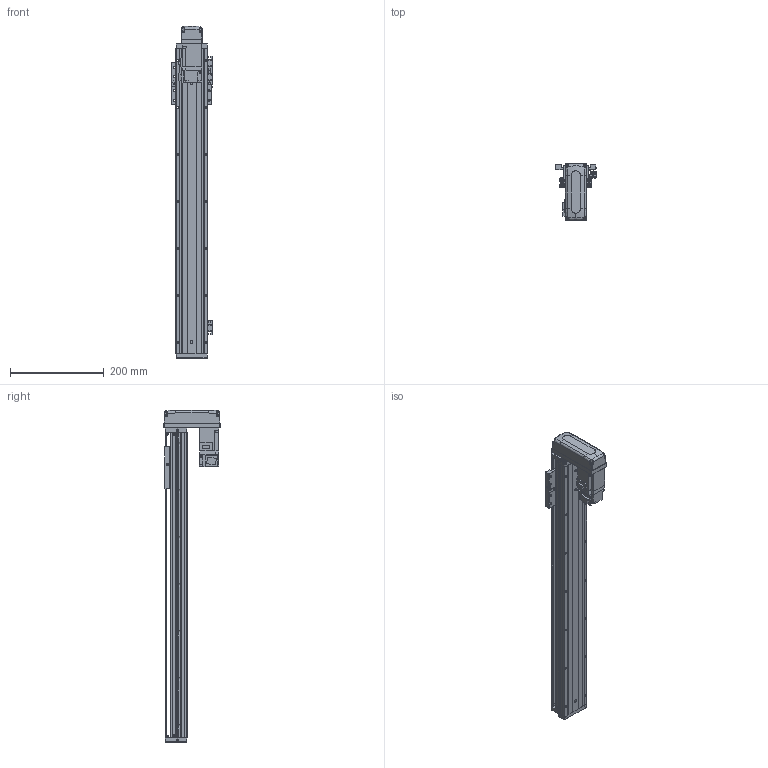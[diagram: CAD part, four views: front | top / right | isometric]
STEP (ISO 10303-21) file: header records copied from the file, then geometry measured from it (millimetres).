
FILE_DESCRIPTION (( 'STEP AP203' ), '1' );
FILE_NAME ('KTHAL60-500-BM-M10-C4L.step', '2022-03-19T08:41:30', ( '微软用户' ), ( '微软中国' ), 'SwSTEP 2.0', 'SolidWorks 2020', '' );
FILE_SCHEMA (( 'CONFIG_CONTROL_DESIGN' ));
Length unit declared in the file: millimetre
Products named in the file (18): KTHA60-005; CTHA60-015-2_CTHA60-015-2; GB¨uT 70.2-M3¡Á5_M3¡Á6; CTHA60-033; GBT 70.1-M4×16; GBT 70.3-M3℅6; GBT 70.1-M3×15; GBT77-2000M3-3; EE_SX911P_R; KTHAL60-500-BM-M10-C4L; KTHA60-001_650; GBT 70.1-M3℅6; CTHA60-017; KTHLA60-002; CTHA60-016; CTHA60-021; KTHA60-004; HG-KR13（三菱）
Assembly tree (51 placements, depth 2):
  KTHAL60-500-BM-M10-C4L
    KTHA60-001_650
    KTHLA60-002
    KTHA60-004
    KTHA60-005
    GB¨uT 70.2-M3¡Á5_M3¡Á6  x5
    GBT 70.3-M3℅6  x4
    EE_SX911P_R  x3
    CTHA60-017  x3
    CTHA60-021  x2
    GBT 70.1-M4×16  x10
    GBT77-2000M3-3  x6
    GBT 70.1-M3℅6  x6
    CTHA60-016
    HG-KR13（三菱）
    CTHA60-015-2_CTHA60-015-2
    CTHA60-033
    GBT 70.1-M3×15  x4
Bounding box: 87.82 x 120 x 707 mm (x, y, z)
Volume: 1534738.2 mm3; surface area: 378819.7 mm2
Topology: 54 solids, 54 shells, 2295 faces, 5443 edges, 3341 vertices
Faces by surface type: plane 1312, cylinder 559, cone 286, torus 98, bspline 26, sphere 14
Entity records: 39993 total; most frequent: CARTESIAN_POINT 7560, DIRECTION 6243, ORIENTED_EDGE 6030, EDGE_CURVE 3015, AXIS2_PLACEMENT_3D 2091, LINE 2061, VECTOR 2061, VERTEX_POINT 1890
